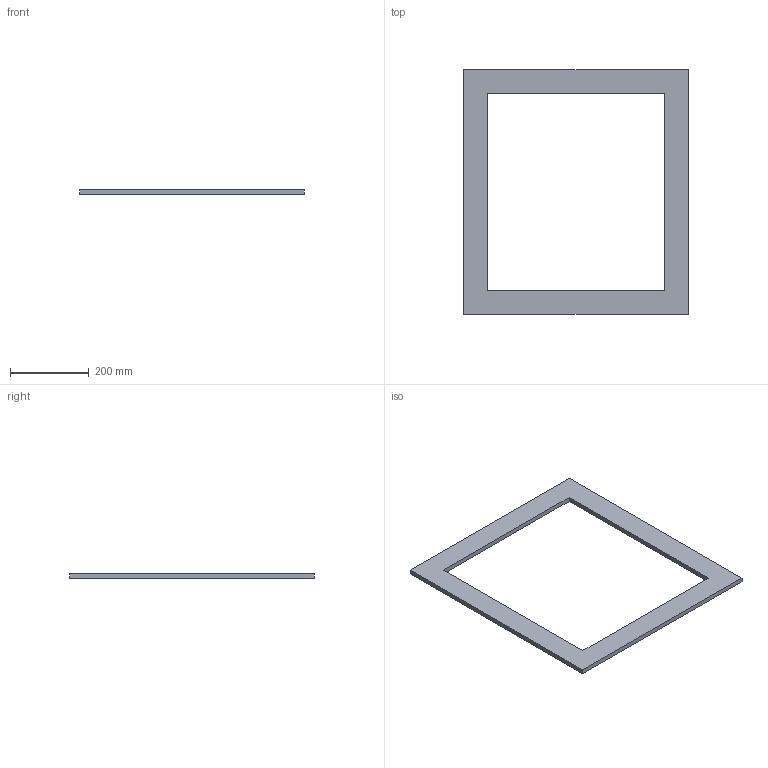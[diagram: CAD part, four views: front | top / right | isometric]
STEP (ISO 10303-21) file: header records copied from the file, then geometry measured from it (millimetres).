
FILE_DESCRIPTION(('Open CASCADE Model'),'2;1');
FILE_NAME('Open CASCADE Shape Model','2026-10-15T15:10:04',('Author'),( 'Open CASCADE'),'Open CASCADE STEP processor 8.0','Open CASCADE 8.0' ,'Unknown');
FILE_SCHEMA(('AUTOMOTIVE_DESIGN { 1 0 10303 214 1 1 1 1 }'));
Length unit declared in the file: millimetre
Products named in the file (1): CORTE_MARCO_570x620x12_P05 92
Bounding box: 570 x 620 x 12 mm (x, y, z)
Volume: 1540800 mm3; surface area: 308160 mm2
Topology: 1 solids, 1 shells, 10 faces, 24 edges, 16 vertices
Faces by surface type: plane 10
Entity records: 614 total; most frequent: CARTESIAN_POINT 99, DIRECTION 94, LINE 72, VECTOR 72, ORIENTED_EDGE 48, PCURVE 48, DEFINITIONAL_REPRESENTATION 48, EDGE_CURVE 24
